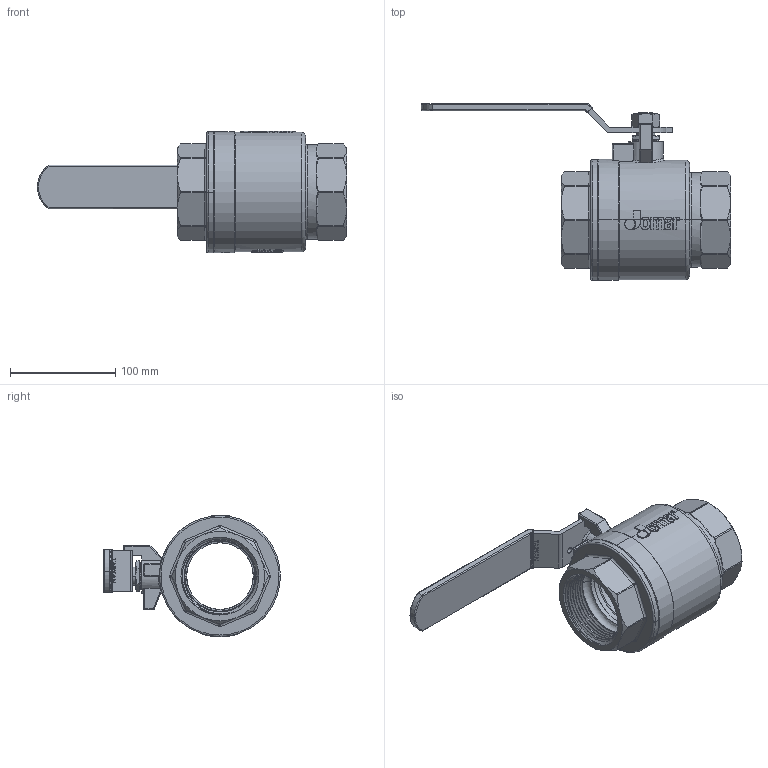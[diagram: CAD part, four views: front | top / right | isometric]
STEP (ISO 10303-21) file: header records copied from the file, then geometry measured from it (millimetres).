
FILE_DESCRIPTION (( 'STEP AP203' ), '1' );
FILE_NAME ('ABL709-無掛鎖-2.5''''JOMAR球閥組合-無鉛-無插溝-2025.STEP', '2025-06-25T06:44:39', ( '' ), ( '' ), 'SwSTEP 2.0', 'SolidWorks 2018', '' );
FILE_SCHEMA (( 'CONFIG_CONTROL_DESIGN' ));
Length unit declared in the file: millimetre
Products named in the file (13): TBL270; EBL209A; NBL270; EBL309; ABL709-無掛鎖-2.5''''JOMAR球閥組合-無鉛-無插溝-2025; BBL709A-2.5''''JOMAR球閥八角頭-無鉛-端面無插溝; RBL270; EBL209B; CBL270; DN65 & DN80-CBL709-無掛鎖組合-白色膠套 T200CSSG; GBL210; BBL709-2.5''''JOMAR球閥體-無鉛-端面無插溝; DN65 & DN80-CBL270白色膠套-T-200CSSG
Assembly tree (13 placements, depth 3):
  ABL709-無掛鎖-2.5''''JOMAR球閥組合-無鉛-無插溝-2025
    BBL709-2.5''''JOMAR球閥體-無鉛-端面無插溝
    RBL270
    EBL209A
    EBL209B
    GBL210
    BBL709A-2.5''''JOMAR球閥八角頭-無鉛-端面無插溝
    NBL270
    EBL309  x2
    TBL270
    DN65 & DN80-CBL709-無掛鎖組合-白色膠套 T200CSSG
      CBL270
      DN65 & DN80-CBL270白色膠套-T-200CSSG
Bounding box: 293.8 x 168.11 x 115.4 mm (x, y, z)
Volume: 778426.4 mm3; surface area: 274514.7 mm2
Topology: 12 solids, 12 shells, 2353 faces, 6304 edges, 4150 vertices
Faces by surface type: plane 1213, bspline 664, cylinder 288, cone 125, torus 51, sphere 12
Entity records: 132436 total; most frequent: CARTESIAN_POINT 77953, ORIENTED_EDGE 12536, DIRECTION 8359, EDGE_CURVE 6268, VERTEX_POINT 4132, LINE 3787, VECTOR 3787, EDGE_LOOP 2546
